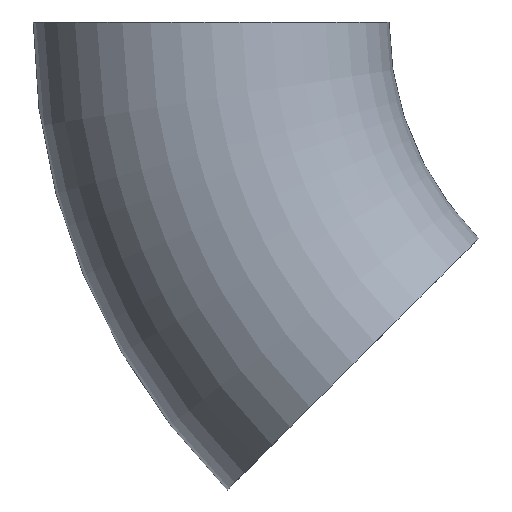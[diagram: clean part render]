
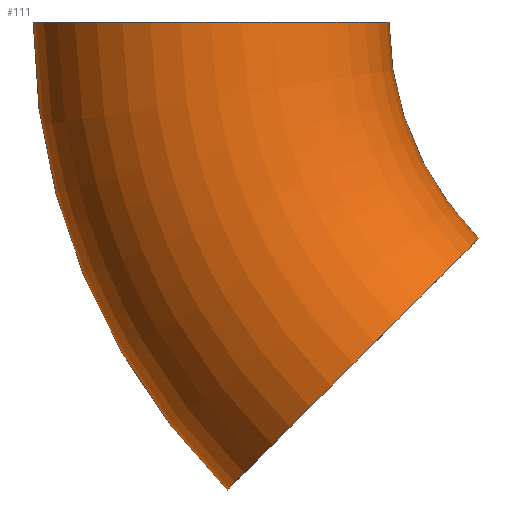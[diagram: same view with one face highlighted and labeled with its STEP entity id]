
A CAD part, front view. The second image highlights one B-rep face of the part: STEP entity #111.
In plain terms, the highlighted toroidal (fillet/blend) face has major radius 190 mm and minor radius 69.85 mm.
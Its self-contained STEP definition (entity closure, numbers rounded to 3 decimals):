
#7 = CARTESIAN_POINT ( 'NONE',  ( -134.35, 0., -134.35 ) ) ;
#12 = TOROIDAL_SURFACE ( 'NONE', #72, 190., 69.85 ) ;
#26 = VERTEX_POINT ( 'NONE', #202 ) ;
#27 = EDGE_LOOP ( 'NONE', ( #44, #146, #107, #147 ) ) ;
#38 = EDGE_CURVE ( 'NONE', #160, #26, #169, .T. ) ;
#44 = ORIENTED_EDGE ( 'NONE', *, *, #48, .F. ) ;
#48 = EDGE_CURVE ( 'NONE', #126, #160, #116, .T. ) ;
#53 = DIRECTION ( 'NONE',  ( -0.707, 0., 0.707 ) ) ;
#55 = CARTESIAN_POINT ( 'NONE',  ( 0., 0., 0. ) ) ;
#71 = CARTESIAN_POINT ( 'NONE',  ( 0., 0., 0. ) ) ;
#72 = AXIS2_PLACEMENT_3D ( 'NONE', #55, #154, #187 ) ;
#75 = EDGE_CURVE ( 'NONE', #214, #26, #201, .T. ) ;
#89 = CARTESIAN_POINT ( 'NONE',  ( -190., 0., 0. ) ) ;
#90 = DIRECTION ( 'NONE',  ( 0., 0., 1. ) ) ;
#94 = DIRECTION ( 'NONE',  ( 0., 1., 0. ) ) ;
#107 = ORIENTED_EDGE ( 'NONE', *, *, #75, .T. ) ;
#111 = ADVANCED_FACE ( 'NONE', ( #245 ), #12, .T. ) ;
#112 = CARTESIAN_POINT ( 'NONE',  ( -183.742, 0., -183.742 ) ) ;
#113 = CARTESIAN_POINT ( 'NONE',  ( -84.959, 0., -84.959 ) ) ;
#116 = CIRCLE ( 'NONE', #210, 259.85 ) ;
#126 = VERTEX_POINT ( 'NONE', #112 ) ;
#130 = DIRECTION ( 'NONE',  ( 0., 1., 0. ) ) ;
#134 = DIRECTION ( 'NONE',  ( 0.707, 0., 0.707 ) ) ;
#146 = ORIENTED_EDGE ( 'NONE', *, *, #198, .T. ) ;
#147 = ORIENTED_EDGE ( 'NONE', *, *, #38, .F. ) ;
#151 = DIRECTION ( 'NONE',  ( 1., 0., 0. ) ) ;
#154 = DIRECTION ( 'NONE',  ( 0., 1., 0. ) ) ;
#160 = VERTEX_POINT ( 'NONE', #186 ) ;
#169 = CIRCLE ( 'NONE', #253, 69.85 ) ;
#184 = DIRECTION ( 'NONE',  ( 0., 0., 1. ) ) ;
#186 = CARTESIAN_POINT ( 'NONE',  ( -259.85, 0., 0. ) ) ;
#187 = DIRECTION ( 'NONE',  ( 0., 0., 1. ) ) ;
#194 = AXIS2_PLACEMENT_3D ( 'NONE', #7, #53, #134 ) ;
#198 = EDGE_CURVE ( 'NONE', #126, #214, #204, .T. ) ;
#201 = CIRCLE ( 'NONE', #233, 120.15 ) ;
#202 = CARTESIAN_POINT ( 'NONE',  ( -120.15, 0., 0. ) ) ;
#204 = CIRCLE ( 'NONE', #194, 69.85 ) ;
#210 = AXIS2_PLACEMENT_3D ( 'NONE', #239, #130, #90 ) ;
#214 = VERTEX_POINT ( 'NONE', #113 ) ;
#224 = DIRECTION ( 'NONE',  ( 0., 0., 1. ) ) ;
#233 = AXIS2_PLACEMENT_3D ( 'NONE', #71, #94, #224 ) ;
#239 = CARTESIAN_POINT ( 'NONE',  ( 0., 0., 0. ) ) ;
#245 = FACE_OUTER_BOUND ( 'NONE', #27, .T. ) ;
#253 = AXIS2_PLACEMENT_3D ( 'NONE', #89, #184, #151 ) ;
